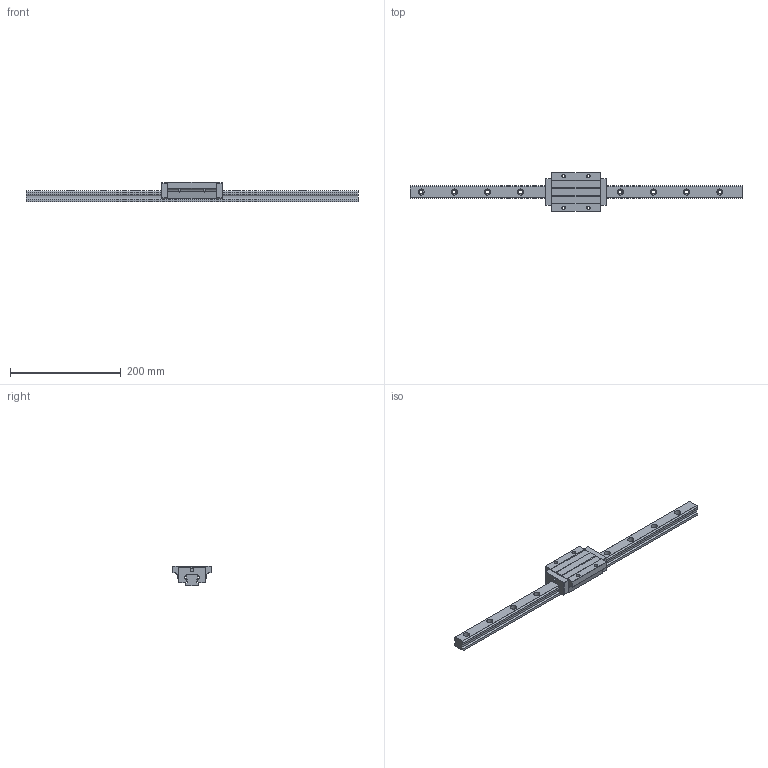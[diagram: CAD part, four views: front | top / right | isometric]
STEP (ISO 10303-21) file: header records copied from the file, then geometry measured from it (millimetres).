
FILE_DESCRIPTION(/* description */ (''),/* implementation_level */ '2;1');
FILE_NAME(/* name */ 'TRH25FE-XN.stp',/* time_stamp */ '2017-10-25T13:11:48+08:00',/* author */ (''),/* organization */ (''),/* preprocessor_version */ 'ST-DEVELOPER v11',/* originating_system */ 'SIEMENS UGS NX 6.0',/* authorisation */ '');
FILE_SCHEMA (('AUTOMOTIVE_DESIGN { 1 0 10303 214 1 1 1 1 }'));
Length unit declared in the file: millimetre
Products named in the file (1): TRH25FE-XN
Bounding box: 600 x 70 x 36 mm (x, y, z)
Volume: 377652.3 mm3; surface area: 86345.1 mm2
Topology: 2 solids, 2 shells, 150 faces, 383 edges, 244 vertices
Faces by surface type: plane 85, cylinder 61, sphere 4
Full cylindrical faces by diameter (mm): 5 x4, 6 x1, 6.25 x4, 7 x10, 11 x10
Entity records: 4365 total; most frequent: CARTESIAN_POINT 783, DIRECTION 754, ORIENTED_EDGE 672, EDGE_CURVE 336, AXIS2_PLACEMENT_3D 273, VERTEX_POINT 230, EDGE_LOOP 218, LINE 208
